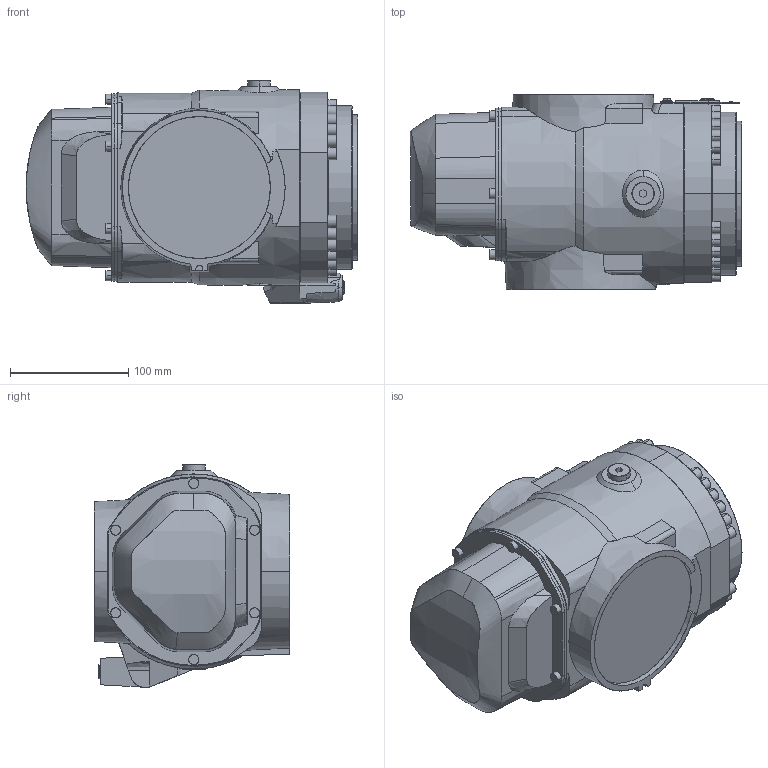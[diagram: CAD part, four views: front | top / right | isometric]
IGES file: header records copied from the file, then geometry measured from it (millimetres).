
Start section: SolidWorks IGES file using analytic representation for surfaces
Global section: file name: C:\Users\SEALDUN\OneDrive - ABB\Documents\R&D Robotics\Work Items\WI 632927 light weight hole removal\IGES\IRB5720-LID-MH_90kg-300_OC_03_IGES_J\IRB5720-LID_90kg-300_OmniCore_rev00_LINK05_CAD.igs; native system: SolidWorks 2024; preprocessor: SolidWorks 2024; author: SEALDUN; date: 250708.123126; units: millimetre
Bounding box: 280.5 x 165 x 188.59 mm (x, y, z)
Surface area: 200846.3 mm2 (no closed solid volume)
Topology: 0 solids, 0 shells, 563 faces, 8355 edges, 8351 vertices
Faces by surface type: bspline 299, revolution 264
